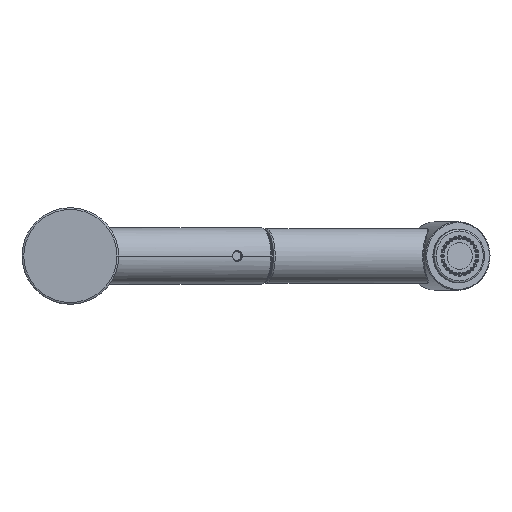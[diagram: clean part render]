
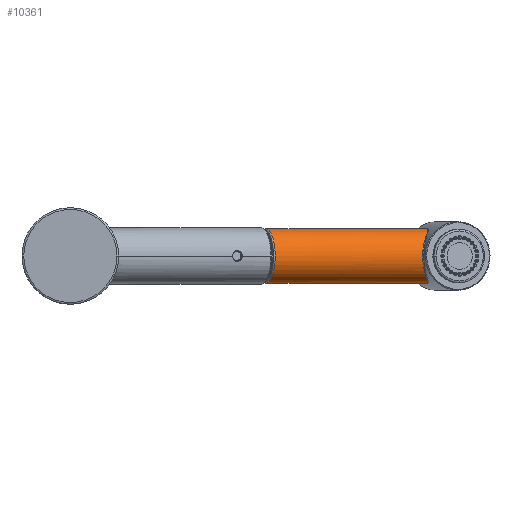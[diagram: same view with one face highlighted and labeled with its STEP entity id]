
A CAD part, front view. The second image highlights one B-rep face of the part: STEP entity #10361.
In plain terms, the highlighted cylindrical face has radius 15.5 mm (diameter 31 mm), a partial arc.
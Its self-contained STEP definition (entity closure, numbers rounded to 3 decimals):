
#649=DIRECTION('',(0.94,0.342,0.));
#650=VECTOR('',#649,97.2);
#651=CARTESIAN_POINT('',(111.213,170.953,-15.5));
#652=LINE('',#651,#650);
#653=CARTESIAN_POINT('',(202.551,204.197,-15.5));
#745=CARTESIAN_POINT('',(202.551,204.197,15.5));
#747=DIRECTION('',(0.94,0.342,0.));
#748=VECTOR('',#747,97.2);
#749=CARTESIAN_POINT('',(111.213,170.953,15.5));
#750=LINE('',#749,#748);
#761=CARTESIAN_POINT('',(111.213,170.953,0.));
#762=DIRECTION('',(0.94,0.342,0.));
#763=DIRECTION('',(0.,0.,1.));
#764=AXIS2_PLACEMENT_3D('',#761,#762,#763);
#766=CARTESIAN_POINT('',(202.551,204.197,15.5));
#767=CARTESIAN_POINT('',(202.596,204.073,15.5));
#768=CARTESIAN_POINT('',(202.683,203.82,15.497));
#769=CARTESIAN_POINT('',(202.801,203.432,15.481));
#770=CARTESIAN_POINT('',(202.907,203.033,15.454));
#771=CARTESIAN_POINT('',(203.001,202.622,15.416));
#772=CARTESIAN_POINT('',(203.082,202.198,15.365));
#773=CARTESIAN_POINT('',(203.15,201.761,15.3));
#774=CARTESIAN_POINT('',(203.204,201.309,15.221));
#775=CARTESIAN_POINT('',(203.243,200.842,15.127));
#776=CARTESIAN_POINT('',(203.268,200.358,15.016));
#777=CARTESIAN_POINT('',(203.278,199.855,14.886));
#778=CARTESIAN_POINT('',(203.271,199.332,14.735));
#779=CARTESIAN_POINT('',(203.248,198.788,14.561));
#780=CARTESIAN_POINT('',(203.208,198.225,14.363));
#781=CARTESIAN_POINT('',(203.151,197.644,14.138));
#782=CARTESIAN_POINT('',(203.077,197.047,13.884));
#783=CARTESIAN_POINT('',(202.986,196.439,13.603));
#784=CARTESIAN_POINT('',(202.881,195.826,13.293));
#785=CARTESIAN_POINT('',(202.764,195.212,12.956));
#786=CARTESIAN_POINT('',(202.635,194.604,12.594));
#787=CARTESIAN_POINT('',(202.499,194.006,12.207));
#788=CARTESIAN_POINT('',(202.357,193.422,11.799));
#789=CARTESIAN_POINT('',(202.212,192.858,11.371));
#790=CARTESIAN_POINT('',(202.067,192.317,10.928));
#791=CARTESIAN_POINT('',(201.922,191.801,10.472));
#792=CARTESIAN_POINT('',(201.781,191.312,10.004));
#793=CARTESIAN_POINT('',(201.643,190.851,9.528));
#794=CARTESIAN_POINT('',(201.511,190.418,9.044));
#795=CARTESIAN_POINT('',(201.384,190.013,8.555));
#796=CARTESIAN_POINT('',(201.264,189.635,8.061));
#797=CARTESIAN_POINT('',(201.15,189.285,7.563));
#798=CARTESIAN_POINT('',(201.044,188.961,7.062));
#799=CARTESIAN_POINT('',(200.945,188.664,6.56));
#800=CARTESIAN_POINT('',(200.854,188.392,6.056));
#801=CARTESIAN_POINT('',(200.77,188.145,5.552));
#802=CARTESIAN_POINT('',(200.693,187.922,5.047));
#803=CARTESIAN_POINT('',(200.624,187.722,4.542));
#804=CARTESIAN_POINT('',(200.563,187.545,4.037));
#805=CARTESIAN_POINT('',(200.509,187.39,3.533));
#806=CARTESIAN_POINT('',(200.462,187.257,3.029));
#807=CARTESIAN_POINT('',(200.423,187.145,2.525));
#808=CARTESIAN_POINT('',(200.391,187.054,2.022));
#809=CARTESIAN_POINT('',(200.366,186.983,1.519));
#810=CARTESIAN_POINT('',(200.348,186.933,1.016));
#811=CARTESIAN_POINT('',(200.337,186.903,0.514));
#812=CARTESIAN_POINT('',(200.333,186.892,0.012));
#813=CARTESIAN_POINT('',(200.337,186.902,-0.491));
#814=CARTESIAN_POINT('',(200.347,186.931,-0.993));
#815=CARTESIAN_POINT('',(200.365,186.981,-1.496));
#816=CARTESIAN_POINT('',(200.389,187.05,-1.999));
#817=CARTESIAN_POINT('',(200.421,187.141,-2.502));
#818=CARTESIAN_POINT('',(200.46,187.252,-3.006));
#819=CARTESIAN_POINT('',(200.507,187.384,-3.51));
#820=CARTESIAN_POINT('',(200.56,187.537,-4.015));
#821=CARTESIAN_POINT('',(200.621,187.713,-4.519));
#822=CARTESIAN_POINT('',(200.69,187.912,-5.024));
#823=CARTESIAN_POINT('',(200.766,188.134,-5.529));
#824=CARTESIAN_POINT('',(200.85,188.38,-6.034));
#825=CARTESIAN_POINT('',(200.941,188.651,-6.537));
#826=CARTESIAN_POINT('',(201.039,188.947,-7.039));
#827=CARTESIAN_POINT('',(201.145,189.27,-7.54));
#828=CARTESIAN_POINT('',(201.258,189.619,-8.038));
#829=CARTESIAN_POINT('',(201.378,189.995,-8.532));
#830=CARTESIAN_POINT('',(201.505,190.399,-9.022));
#831=CARTESIAN_POINT('',(201.637,190.831,-9.506));
#832=CARTESIAN_POINT('',(201.774,191.291,-9.983));
#833=CARTESIAN_POINT('',(201.916,191.778,-10.451));
#834=CARTESIAN_POINT('',(202.06,192.292,-10.907));
#835=CARTESIAN_POINT('',(202.205,192.832,-11.351));
#836=CARTESIAN_POINT('',(202.351,193.396,-11.779));
#837=CARTESIAN_POINT('',(202.493,193.979,-12.189));
#838=CARTESIAN_POINT('',(202.63,194.577,-12.577));
#839=CARTESIAN_POINT('',(202.758,195.186,-12.941));
#840=CARTESIAN_POINT('',(202.876,195.798,-13.279));
#841=CARTESIAN_POINT('',(202.982,196.41,-13.589));
#842=CARTESIAN_POINT('',(203.072,197.016,-13.871));
#843=CARTESIAN_POINT('',(203.147,197.611,-14.124));
#844=CARTESIAN_POINT('',(203.206,198.193,-14.351));
#845=CARTESIAN_POINT('',(203.246,198.757,-14.551));
#846=CARTESIAN_POINT('',(203.27,199.301,-14.726));
#847=CARTESIAN_POINT('',(203.278,199.825,-14.878));
#848=CARTESIAN_POINT('',(203.269,200.329,-15.009));
#849=CARTESIAN_POINT('',(203.245,200.816,-15.122));
#850=CARTESIAN_POINT('',(203.206,201.285,-15.217));
#851=CARTESIAN_POINT('',(203.153,201.738,-15.296));
#852=CARTESIAN_POINT('',(203.086,202.175,-15.361));
#853=CARTESIAN_POINT('',(203.006,202.599,-15.413));
#854=CARTESIAN_POINT('',(202.913,203.012,-15.452));
#855=CARTESIAN_POINT('',(202.806,203.415,-15.48));
#856=CARTESIAN_POINT('',(202.686,203.81,-15.496));
#857=CARTESIAN_POINT('',(202.597,204.069,-15.5));
#858=CARTESIAN_POINT('',(202.551,204.197,-15.5));
#9047=VERTEX_POINT('',#653);
#9048=VERTEX_POINT('',#745);
#9079=CARTESIAN_POINT('',(111.213,170.953,15.5));
#9080=CARTESIAN_POINT('',(111.213,170.953,-15.5));
#9081=VERTEX_POINT('',#9079);
#9082=VERTEX_POINT('',#9080);
#10349=CARTESIAN_POINT('',(220.029,210.559,0.));
#10350=DIRECTION('',(-0.94,-0.342,0.));
#10351=DIRECTION('',(0.,0.,1.));
#10352=AXIS2_PLACEMENT_3D('',#10349,#10350,#10351);
#10353=CYLINDRICAL_SURFACE('',#10352,15.5);
#10354=ORIENTED_EDGE('',*,*,#10328,.F.);
#10355=ORIENTED_EDGE('',*,*,#10279,.T.);
#10357=ORIENTED_EDGE('',*,*,#10356,.T.);
#10358=ORIENTED_EDGE('',*,*,#10276,.F.);
#10359=EDGE_LOOP('',(#10354,#10355,#10357,#10358));
#10360=FACE_OUTER_BOUND('',#10359,.F.);
#765=CIRCLE('',#764,15.5);
#859=B_SPLINE_CURVE_WITH_KNOTS('',3,(#766,#767,#768,#769,#770,#771,#772,#773,
#774,#775,#776,#777,#778,#779,#780,#781,#782,#783,#784,#785,#786,#787,#788,#789,
#790,#791,#792,#793,#794,#795,#796,#797,#798,#799,#800,#801,#802,#803,#804,#805,
#806,#807,#808,#809,#810,#811,#812,#813,#814,#815,#816,#817,#818,#819,#820,#821,
#822,#823,#824,#825,#826,#827,#828,#829,#830,#831,#832,#833,#834,#835,#836,#837,
#838,#839,#840,#841,#842,#843,#844,#845,#846,#847,#848,#849,#850,#851,#852,#853,
#854,#855,#856,#857,#858),.UNSPECIFIED.,.F.,.F.,(4,1,1,1,1,1,1,1,1,1,1,1,1,1,1,
1,1,1,1,1,1,1,1,1,1,1,1,1,1,1,1,1,1,1,1,1,1,1,1,1,1,1,1,1,1,1,1,1,1,1,1,1,1,1,1,
1,1,1,1,1,1,1,1,1,1,1,1,1,1,1,1,1,1,1,1,1,1,1,1,1,1,1,1,1,1,1,1,1,1,1,4),(0.,
0.011,0.022,0.033,0.044,
0.056,0.067,0.078,0.089,0.1,
0.111,0.122,0.133,0.144,
0.156,0.167,0.178,0.189,0.2,
0.211,0.222,0.233,0.244,
0.256,0.267,0.278,0.289,0.3,
0.311,0.322,0.333,0.344,
0.356,0.367,0.378,0.389,0.4,
0.411,0.422,0.433,0.444,
0.456,0.467,0.478,0.489,0.5,
0.511,0.522,0.533,0.544,
0.556,0.567,0.578,0.589,0.6,
0.611,0.622,0.633,0.644,
0.656,0.667,0.678,0.689,0.7,
0.711,0.722,0.733,0.744,
0.756,0.767,0.778,0.789,0.8,
0.811,0.822,0.833,0.844,
0.856,0.867,0.878,0.889,0.9,
0.911,0.922,0.933,0.944,
0.956,0.967,0.978,0.989,1.),
.UNSPECIFIED.);
#10276=EDGE_CURVE('',#9082,#9047,#652,.T.);
#10279=EDGE_CURVE('',#9081,#9048,#750,.T.);
#10328=EDGE_CURVE('',#9081,#9082,#765,.T.);
#10356=EDGE_CURVE('',#9048,#9047,#859,.T.);
#10361=ADVANCED_FACE('',(#10360),#10353,.T.);
